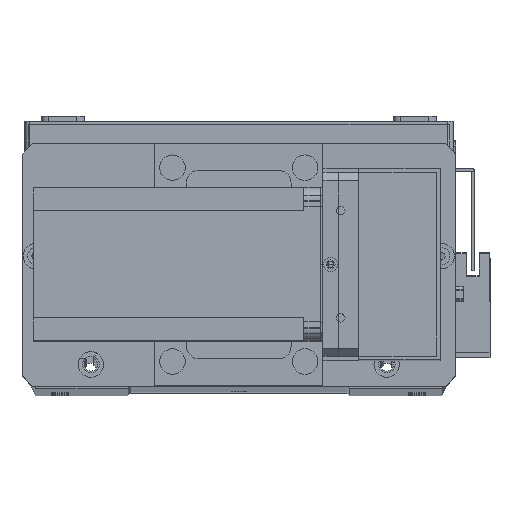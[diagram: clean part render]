
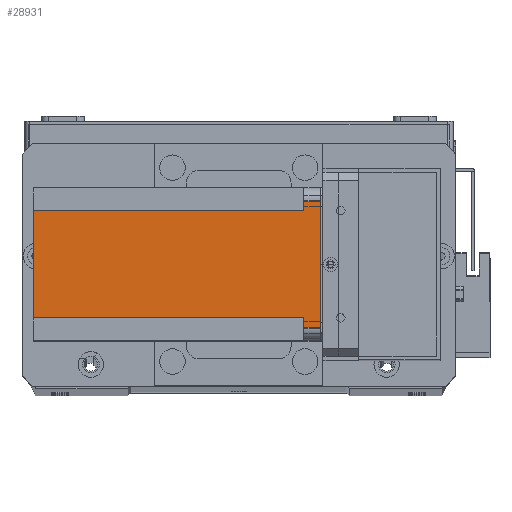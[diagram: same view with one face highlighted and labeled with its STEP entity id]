
A CAD part, top view. The second image highlights one B-rep face of the part: STEP entity #28931.
In plain terms, the highlighted planar face has unit normal (0, 0, 1) as drawn and (-1, 0, 0) by its records, which use the part's own axes.
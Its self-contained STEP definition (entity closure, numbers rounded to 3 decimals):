
#648 = LINE ( 'NONE', #23490, #26302 ) ;
#969 = ORIENTED_EDGE ( 'NONE', *, *, #10457, .F. ) ;
#1061 = VECTOR ( 'NONE', #17579, 1000. ) ;
#1482 = ORIENTED_EDGE ( 'NONE', *, *, #9986, .F. ) ;
#1850 = ORIENTED_EDGE ( 'NONE', *, *, #10397, .T. ) ;
#1939 = ORIENTED_EDGE ( 'NONE', *, *, #10358, .F. ) ;
#1950 = CARTESIAN_POINT ( 'NONE',  ( 0., 5., 0. ) ) ;
#2213 = ORIENTED_EDGE ( 'NONE', *, *, #10448, .T. ) ;
#2657 = VERTEX_POINT ( 'NONE', #3101 ) ;
#2730 = LINE ( 'NONE', #18599, #16142 ) ;
#3101 = CARTESIAN_POINT ( 'NONE',  ( 0., 51., -112.5 ) ) ;
#3234 = DIRECTION ( 'NONE',  ( 0., -1., 0. ) ) ;
#3376 = CARTESIAN_POINT ( 'NONE',  ( 0., 0., 0. ) ) ;
#4176 = CARTESIAN_POINT ( 'NONE',  ( 0., 5., -6.5 ) ) ;
#5648 = VERTEX_POINT ( 'NONE', #15261 ) ;
#5998 = LINE ( 'NONE', #3376, #31232 ) ;
#6721 = VERTEX_POINT ( 'NONE', #18134 ) ;
#6785 = VECTOR ( 'NONE', #21834, 1000. ) ;
#8275 = VERTEX_POINT ( 'NONE', #8600 ) ;
#8446 = CARTESIAN_POINT ( 'NONE',  ( 0., 55., -6.5 ) ) ;
#8451 = EDGE_LOOP ( 'NONE', ( #1939, #1850, #1482, #2213, #969, #9021, #8659, #8821 ) ) ;
#8600 = CARTESIAN_POINT ( 'NONE',  ( 0., 9., -112.5 ) ) ;
#8659 = ORIENTED_EDGE ( 'NONE', *, *, #10544, .T. ) ;
#8821 = ORIENTED_EDGE ( 'NONE', *, *, #10642, .F. ) ;
#9021 = ORIENTED_EDGE ( 'NONE', *, *, #10485, .F. ) ;
#9986 = EDGE_CURVE ( 'NONE', #6721, #21021, #5998, .T. ) ;
#10358 = EDGE_CURVE ( 'NONE', #25578, #5648, #648, .T. ) ;
#10397 = EDGE_CURVE ( 'NONE', #25578, #21021, #13482, .T. ) ;
#10448 = EDGE_CURVE ( 'NONE', #6721, #28210, #31206, .T. ) ;
#10457 = EDGE_CURVE ( 'NONE', #29348, #28210, #30460, .T. ) ;
#10485 = EDGE_CURVE ( 'NONE', #2657, #29348, #2730, .T. ) ;
#10544 = EDGE_CURVE ( 'NONE', #2657, #8275, #27436, .T. ) ;
#10642 = EDGE_CURVE ( 'NONE', #5648, #8275, #18746, .T. ) ;
#10779 = DIRECTION ( 'NONE',  ( -1., 0., 0. ) ) ;
#11529 = VECTOR ( 'NONE', #15000, 1000. ) ;
#11912 = VECTOR ( 'NONE', #20361, 1000. ) ;
#13482 = LINE ( 'NONE', #22226, #6785 ) ;
#14936 = CARTESIAN_POINT ( 'NONE',  ( 0., 9., -112.5 ) ) ;
#15000 = DIRECTION ( 'NONE',  ( 0., 0., -1. ) ) ;
#15261 = CARTESIAN_POINT ( 'NONE',  ( 0., 9., -6.5 ) ) ;
#15643 = PLANE ( 'NONE',  #26320 ) ;
#16142 = VECTOR ( 'NONE', #18420, 1000. ) ;
#17443 = CARTESIAN_POINT ( 'NONE',  ( 0., 0., -112.5 ) ) ;
#17579 = DIRECTION ( 'NONE',  ( 0., -1., 0. ) ) ;
#18134 = CARTESIAN_POINT ( 'NONE',  ( 0., 55., 0. ) ) ;
#18369 = VECTOR ( 'NONE', #20657, 1000. ) ;
#18420 = DIRECTION ( 'NONE',  ( 0., 0., 1. ) ) ;
#18599 = CARTESIAN_POINT ( 'NONE',  ( 0., 51., -112.5 ) ) ;
#18746 = LINE ( 'NONE', #14936, #11529 ) ;
#20216 = CARTESIAN_POINT ( 'NONE',  ( 0., 60., -6.5 ) ) ;
#20361 = DIRECTION ( 'NONE',  ( 0., 1., 0. ) ) ;
#20657 = DIRECTION ( 'NONE',  ( 0., 0., -1. ) ) ;
#21021 = VERTEX_POINT ( 'NONE', #1950 ) ;
#21627 = CARTESIAN_POINT ( 'NONE',  ( 0., 55., -112.5 ) ) ;
#21834 = DIRECTION ( 'NONE',  ( 0., 0., 1. ) ) ;
#22226 = CARTESIAN_POINT ( 'NONE',  ( 0., 5., -112.5 ) ) ;
#22342 = FACE_OUTER_BOUND ( 'NONE', #8451, .T. ) ;
#22692 = DIRECTION ( 'NONE',  ( 0., 1., 0. ) ) ;
#23490 = CARTESIAN_POINT ( 'NONE',  ( 0., 0., -6.5 ) ) ;
#25299 = CARTESIAN_POINT ( 'NONE',  ( 0., 0., -112.5 ) ) ;
#25578 = VERTEX_POINT ( 'NONE', #4176 ) ;
#26302 = VECTOR ( 'NONE', #22692, 1000. ) ;
#26320 = AXIS2_PLACEMENT_3D ( 'NONE', #25299, #10779, #27739 ) ;
#26968 = CARTESIAN_POINT ( 'NONE',  ( 0., 51., -6.5 ) ) ;
#27436 = LINE ( 'NONE', #17443, #1061 ) ;
#27739 = DIRECTION ( 'NONE',  ( 0., -1., 0. ) ) ;
#28210 = VERTEX_POINT ( 'NONE', #8446 ) ;
#28931 = ADVANCED_FACE ( 'NONE', ( #22342 ), #15643, .T. ) ;
#29348 = VERTEX_POINT ( 'NONE', #26968 ) ;
#30460 = LINE ( 'NONE', #20216, #11912 ) ;
#31206 = LINE ( 'NONE', #21627, #18369 ) ;
#31232 = VECTOR ( 'NONE', #3234, 1000. ) ;
